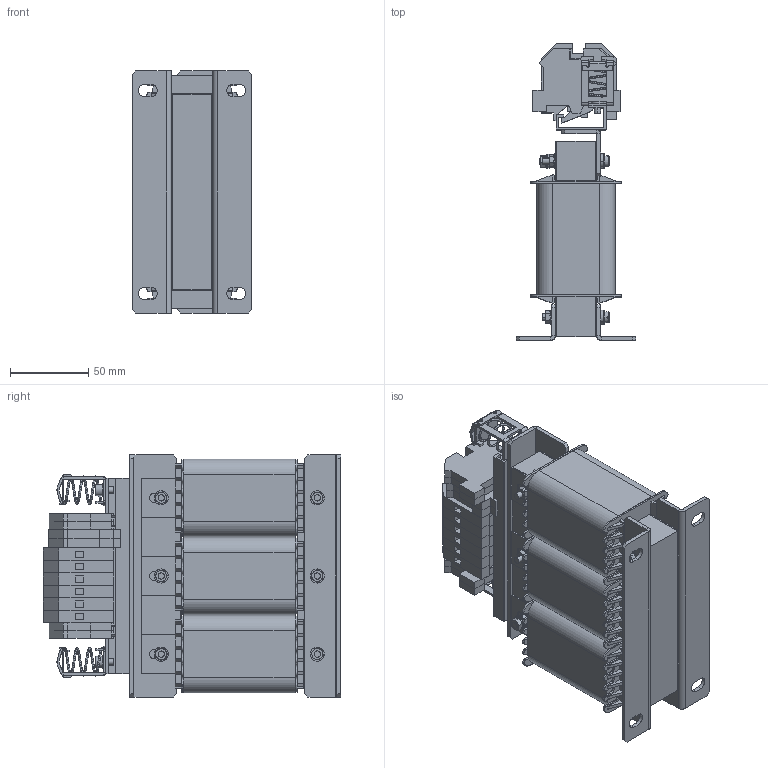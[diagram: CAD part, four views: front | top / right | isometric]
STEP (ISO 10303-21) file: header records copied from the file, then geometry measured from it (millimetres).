
FILE_DESCRIPTION (( 'STEP AP214' ), '1' );
FILE_NAME ('B 0407049.STEP', '2012-01-31T14:01:27', ( 'edv' ), ( 'Microsoft' ), 'SwSTEP 2.0', 'SolidWorks 2010', '' );
FILE_SCHEMA (( 'AUTOMOTIVE_DESIGN' ));
Length unit declared in the file: millimetre
Products named in the file (22): 3UI75-24,5; +6230-0004; Isolierbuchse M4_M05; Slotted Cheese Head Screw_DIN_ISO 1207 - M4 x 40 --- 40N; Plain Washer Grade A_DIN_Washer DIN 125 - A 4.3; Hex Nut Style 1 GradeAB_DIN_Hexagon Nut ISO 4032 - M4 - D - N; Curved Spring Lock Washer_DIN_Spring washer DIN 128 - A4; #080-0420; Winkel; TS32x125_mit M4; D55; UI75-26,5oD; Wickel 3UI 75_26,5; SL 10_32; RK10; RK 2,5-4_TS32; Baugruppe Schirmklemme KLBU 4-13,5; Teil 2 f黵 Schirmklemme KLBU 4-13,5; Teil 1 f黵 Schirmklemme KLBU 4-13,5; Teil 3 f黵 Schirmklemme KLBU 4-13,5; B 0407049
Assembly tree (66 placements, depth 3):
  B 0407049
    RK10  x6
    Hex Nut Style 1 GradeAB_DIN_Hexagon Nut ISO 4032 - M4 - D - N  x7
    D55  x6
    Wickel 3UI 75_26,5  x2
    Isolierbuchse M4_M05  x5
    Plain Washer Grade A_DIN_Washer DIN 125 - A 4.3  x14
    #080-0420
      Winkel
      TS32x125_mit M4
    UI75-26,5oD  x3
    RK 2,5-4_TS32  x2
    +6230-0004  x2
    Slotted Cheese Head Screw_DIN_ISO 1207 - M4 x 40 --- 40N  x6
    SL 10_32  x2
    3UI75-24,5
    Wickel 3UI 75_26,5
    Curved Spring Lock Washer_DIN_Spring washer DIN 128 - A4
    Baugruppe Schirmklemme KLBU 4-13,5  x2
      Teil 2 f黵 Schirmklemme KLBU 4-13,5
      Teil 3 f黵 Schirmklemme KLBU 4-13,5
      Teil 1 f黵 Schirmklemme KLBU 4-13,5
Bounding box: 76.5 x 190.5 x 155 mm (x, y, z)
Volume: 909154.6 mm3; surface area: 388617.8 mm2
Topology: 73 solids, 73 shells, 2653 faces, 6698 edges, 4270 vertices
Faces by surface type: plane 1716, cylinder 658, cone 124, bspline 105, torus 50
Entity records: 43696 total; most frequent: CARTESIAN_POINT 12393, ORIENTED_EDGE 5680, DIRECTION 5366, EDGE_CURVE 2840, VECTOR 2112, LINE 2112, VERTEX_POINT 1822, AXIS2_PLACEMENT_3D 1627
